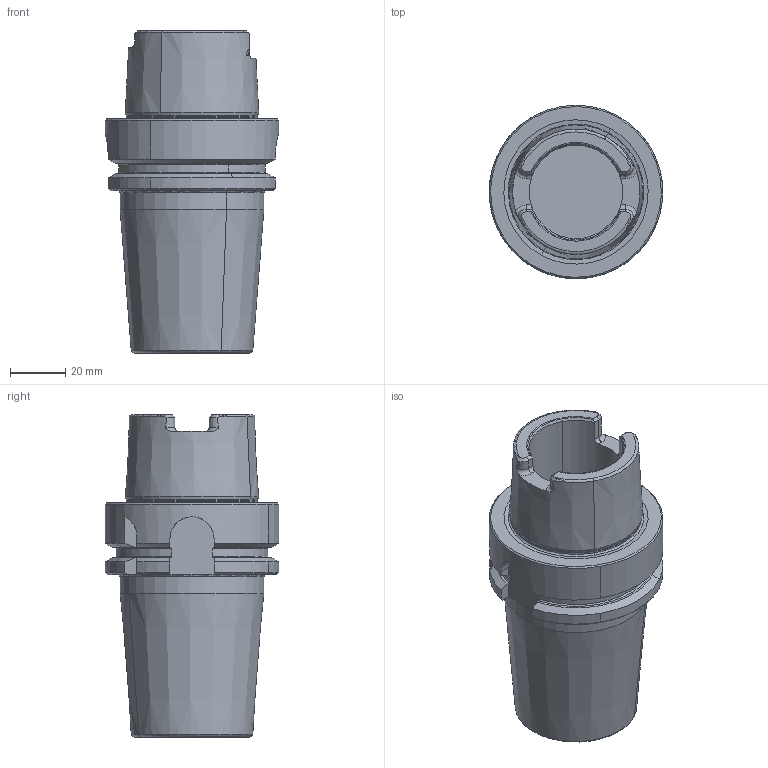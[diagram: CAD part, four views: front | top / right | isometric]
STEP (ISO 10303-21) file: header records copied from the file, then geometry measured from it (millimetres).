
FILE_DESCRIPTION(('CATIA V5 STEP','CAx-IF Rec.Pracs.--- Model Styling and Organization---1.2---2011-12-15'),'2;1');
FILE_NAME('\\nas01\drv1\utils\eitdev\rte\eit\transmagicconvert\db\out\4506032 L.stp','2014-04-02T07:17:02+00:00',('none'),('none'),'CATIA Version 5 Release 21 SP 5 (IN-10)','CATIA V5 STEP AP214','none');
FILE_SCHEMA(('AUTOMOTIVE_DESIGN { 1 0 10303 214 1 1 1 1 }'));
Length unit declared in the file: millimetre
Products named in the file (1): 60966411_0 Holder-Tool HSK A 63 SRKIN 32X85
Bounding box: 62.99 x 63 x 117 mm (x, y, z)
Volume: 196577.7 mm3; surface area: 29608.2 mm2
Topology: 1 solids, 1 shells, 135 faces, 353 edges, 222 vertices
Faces by surface type: plane 42, cone 33, cylinder 32, torus 28
Entity records: 4236 total; most frequent: CARTESIAN_POINT 1305, ORIENTED_EDGE 706, DIRECTION 430, EDGE_CURVE 353, AXIS2_PLACEMENT_3D 231, VERTEX_POINT 222, CIRCLE 151, EDGE_LOOP 137
